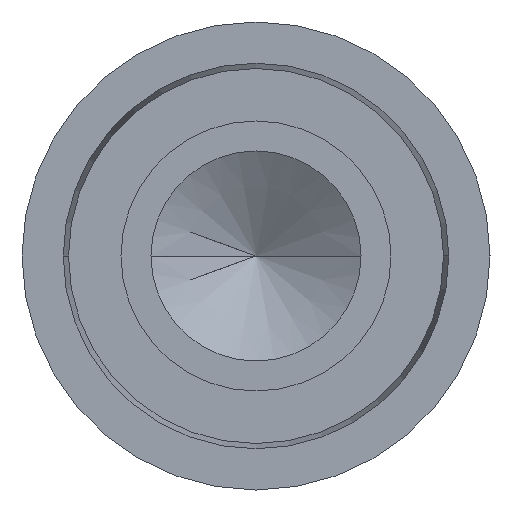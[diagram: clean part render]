
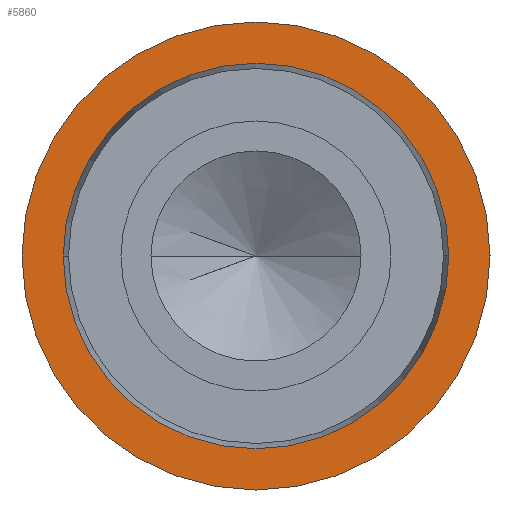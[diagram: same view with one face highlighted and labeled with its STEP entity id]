
A CAD part, left-side view. The second image highlights one B-rep face of the part: STEP entity #5860.
In plain terms, the highlighted planar face has unit normal (-1, 0, 0).
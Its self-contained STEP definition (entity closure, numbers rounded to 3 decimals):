
#4710=CARTESIAN_POINT('',(0.,1.632,
0.));
#4720=VERTEX_POINT('',#4710);
#4750=CARTESIAN_POINT('',(0.,0.,
0.));
#4760=DIRECTION('',(-1.,0.,0.));
#4770=DIRECTION('',(0.,1.,0.));
#4780=AXIS2_PLACEMENT_3D('',#4750,#4760,#4770);
#4790=CIRCLE('',#4780,1.632);
#4800=CARTESIAN_POINT('',(0.,0.,1.632));
#4810=VERTEX_POINT('',#4800);
#4820=EDGE_CURVE('',#4810,#4720,#4790,.T.);
#4840=CARTESIAN_POINT('',(0.,-1.632,
0.));
#4850=VERTEX_POINT('',#4840);
#4860=EDGE_CURVE('',#4850,#4810,#4790,.T.);
#5560=CARTESIAN_POINT('',(0.,-2.005,2.005));
#5570=DIRECTION('',(1.,0.,0.));
#5580=DIRECTION('',(0.,-1.,0.));
#5590=AXIS2_PLACEMENT_3D('',#5560,#5570,#5580);
#5600=PLANE('',#5590);
#5610=CARTESIAN_POINT('',(0.,0.,0.
));
#5620=DIRECTION('',(1.,-0.,-0.));
#5630=DIRECTION('',(0.,1.,0.));
#5640=AXIS2_PLACEMENT_3D('',#5610,#5620,#5630);
#5650=CIRCLE('',#5640,1.981);
#5660=CARTESIAN_POINT('',(0.,0.,
1.981));
#5670=VERTEX_POINT('',#5660);
#5680=CARTESIAN_POINT('',(0.,-1.981,0.));
#5690=VERTEX_POINT('',#5680);
#5700=EDGE_CURVE('',#5670,#5690,#5650,.T.);
#5710=ORIENTED_EDGE('',*,*,#5700,.F.);
#5720=CARTESIAN_POINT('',(0.,1.981,0.));
#5730=VERTEX_POINT('',#5720);
#5740=EDGE_CURVE('',#5690,#5730,#5650,.T.);
#5750=ORIENTED_EDGE('',*,*,#5740,.F.);
#5760=EDGE_CURVE('',#5730,#5670,#5650,.T.);
#5770=ORIENTED_EDGE('',*,*,#5760,.F.);
#5780=EDGE_LOOP('',(#5770,#5750,#5710));
#5790=FACE_OUTER_BOUND('',#5780,.T.);
#5800=ORIENTED_EDGE('',*,*,#4820,.F.);
#5810=EDGE_CURVE('',#4720,#4850,#4790,.T.);
#5820=ORIENTED_EDGE('',*,*,#5810,.F.);
#5830=ORIENTED_EDGE('',*,*,#4860,.F.);
#5840=EDGE_LOOP('',(#5830,#5820,#5800));
#5850=FACE_BOUND('',#5840,.T.);
#5860=ADVANCED_FACE('',(#5790,#5850),#5600,.F.);
